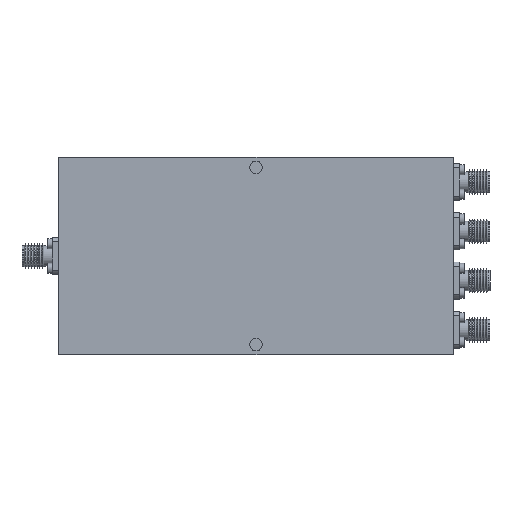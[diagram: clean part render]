
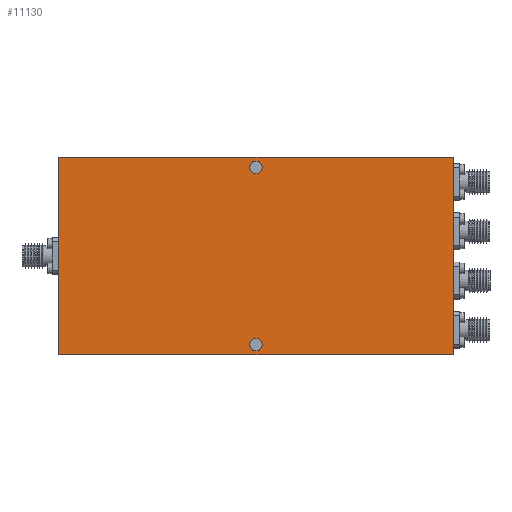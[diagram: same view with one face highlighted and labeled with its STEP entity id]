
A CAD part, top view. The second image highlights one B-rep face of the part: STEP entity #11130.
In plain terms, the highlighted planar face has unit normal (0, 0, 1).
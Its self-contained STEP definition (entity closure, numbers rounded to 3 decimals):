
#709=LINE('',#16397,#1041);
#710=LINE('',#16400,#1042);
#711=LINE('',#16402,#1043);
#712=LINE('',#16404,#1044);
#1041=VECTOR('',#13790,1000.);
#1042=VECTOR('',#13791,1000.);
#1043=VECTOR('',#13792,1000.);
#1044=VECTOR('',#13793,1000.);
#1235=PLANE('',#11953);
#2594=ORIENTED_EDGE('',*,*,#3647,.T.);
#2595=ORIENTED_EDGE('',*,*,#3648,.T.);
#2596=ORIENTED_EDGE('',*,*,#3649,.T.);
#2597=ORIENTED_EDGE('',*,*,#3650,.T.);
#2598=ORIENTED_EDGE('',*,*,#3651,.F.);
#2599=ORIENTED_EDGE('',*,*,#3652,.F.);
#3647=EDGE_CURVE('',#4342,#4343,#709,.T.);
#3648=EDGE_CURVE('',#4343,#4344,#710,.T.);
#3649=EDGE_CURVE('',#4344,#4345,#711,.T.);
#3650=EDGE_CURVE('',#4345,#4342,#712,.T.);
#3651=EDGE_CURVE('',#4346,#4346,#4749,.T.);
#3652=EDGE_CURVE('',#4347,#4347,#4750,.T.);
#4342=VERTEX_POINT('',#16398);
#4343=VERTEX_POINT('',#16399);
#4344=VERTEX_POINT('',#16401);
#4345=VERTEX_POINT('',#16403);
#4346=VERTEX_POINT('',#16406);
#4347=VERTEX_POINT('',#16408);
#4749=CIRCLE('',#11954,1.6);
#4750=CIRCLE('',#11955,1.6);
#5465=EDGE_LOOP('',(#2594,#2595,#2596,#2597));
#5466=EDGE_LOOP('',(#2598));
#5467=EDGE_LOOP('',(#2599));
#6387=FACE_BOUND('',#5465,.T.);
#6388=FACE_BOUND('',#5466,.T.);
#6389=FACE_BOUND('',#5467,.T.);
#11130=ADVANCED_FACE('',(#6387,#6388,#6389),#1235,.T.);
#11953=AXIS2_PLACEMENT_3D('',#16396,#13788,#13789);
#11954=AXIS2_PLACEMENT_3D('',#16405,#13794,#13795);
#11955=AXIS2_PLACEMENT_3D('',#16407,#13796,#13797);
#13788=DIRECTION('',(0.,0.,1.));
#13789=DIRECTION('',(1.,0.,0.));
#13790=DIRECTION('',(0.,1.,0.));
#13791=DIRECTION('',(-1.,0.,0.));
#13792=DIRECTION('',(0.,-1.,0.));
#13793=DIRECTION('',(1.,0.,0.));
#13794=DIRECTION('',(0.,0.,1.));
#13795=DIRECTION('',(1.,0.,0.));
#13796=DIRECTION('',(0.,0.,1.));
#13797=DIRECTION('',(1.,0.,0.));
#16396=CARTESIAN_POINT('',(0.,0.,4.));
#16397=CARTESIAN_POINT('',(50.8,-25.4,4.));
#16398=CARTESIAN_POINT('',(50.8,-25.4,4.));
#16399=CARTESIAN_POINT('',(50.8,25.4,4.));
#16400=CARTESIAN_POINT('',(50.8,25.4,4.));
#16401=CARTESIAN_POINT('',(-50.8,25.4,4.));
#16402=CARTESIAN_POINT('',(-50.8,25.4,4.));
#16403=CARTESIAN_POINT('',(-50.8,-25.4,4.));
#16404=CARTESIAN_POINT('',(-50.8,-25.4,4.));
#16405=CARTESIAN_POINT('',(0.,22.86,4.));
#16406=CARTESIAN_POINT('',(1.6,22.86,4.));
#16407=CARTESIAN_POINT('',(0.,-22.86,4.));
#16408=CARTESIAN_POINT('',(1.6,-22.86,4.));
